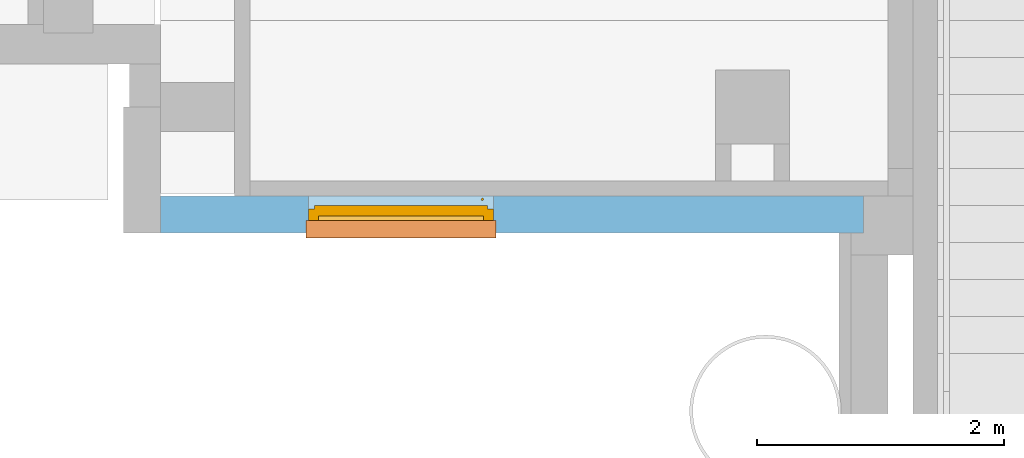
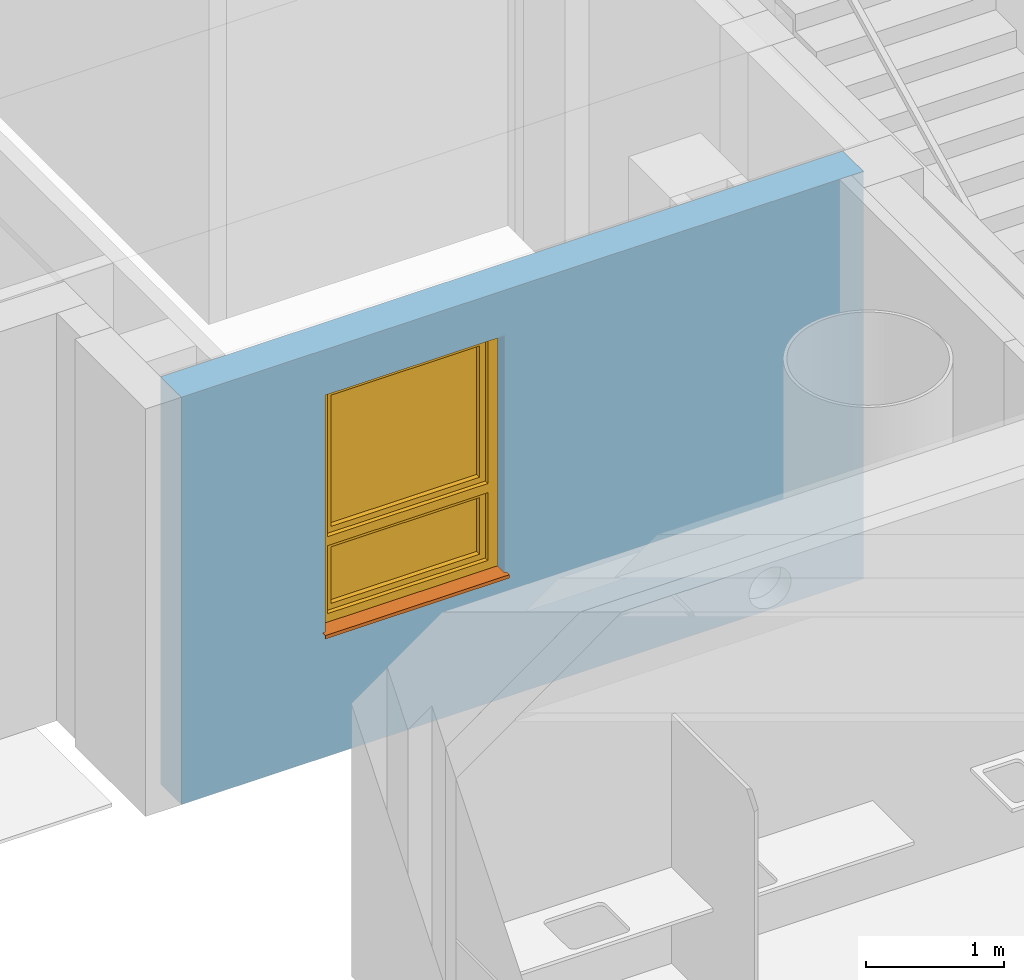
# One storey, part 68 of 140: 1 proxy, 1 window, 1 opening, plus 1 element that does not belong to this part.
"""IFC4 building model written with IfcOpenShell, lengths in metres."""

import ifcopenshell
import ifcopenshell.guid

model = None  # the IFC model being written
_history = None  # IfcOwnerHistory: only IFC2X3 demands one
_inside = {}  # id of a spatial element -> (the spatial element, [elements in it])
_under = {}  # id of a project, library or spatial element -> (it, [spatial elements below it])
_declared = {}  # id of a project -> (the project, [libraries it declares])
_typed = {}  # id of a type object -> (the type object, [elements of that type])
_made_of = {}  # id of a material, layer set ... -> (it, [elements and type objects made of it])


def new_model(schema):
    """Start an empty IFC model of exactly this schema.

    Asked for "IFC4X3", IfcOpenShell would pick the latest addendum, in which some entities
    have other attributes; the version numbers below select the first issue.
    IFC2X3 requires an IfcOwnerHistory on every rooted entity: one is made here for all.
    """
    global model, _history
    if schema == "IFC4X3":
        model = ifcopenshell.file(schema_version=(4, 3, 0, 0))
    else:
        model = ifcopenshell.file(schema=schema)
    _inside.clear()
    _under.clear()
    _declared.clear()
    _typed.clear()
    _made_of.clear()
    _history = None
    if model.schema == "IFC2X3":
        org = make("IfcOrganization", Name="unknown")
        user = make(
            "IfcPersonAndOrganization",
            ThePerson=make("IfcPerson", FamilyName="unknown"),
            TheOrganization=org,
        )
        app = make(
            "IfcApplication",
            ApplicationDeveloper=org,
            Version="unknown",
            ApplicationFullName="unknown",
            ApplicationIdentifier="unknown",
        )
        _history = make(
            "IfcOwnerHistory",
            OwningUser=user,
            OwningApplication=app,
            ChangeAction="ADDED",
            CreationDate=0,
        )
    return model


def make(cls, **values):
    """One entity of the class cls with the attributes given. An attribute that is None is left unset."""
    return model.create_entity(
        cls, **{name: value for name, value in values.items() if value is not None}
    )


def entity(cls, *values):
    """Any entity or typed value of the class cls, its attributes in the order of the schema. None: left unset."""
    e = model.create_entity(cls)
    for i, value in enumerate(values):
        if value is not None:
            e[i] = value
    return e


def rooted(cls, **values):
    """An entity with a GlobalId (a new one), such as an element, a storey or a relation."""
    return make(cls, GlobalId=ifcopenshell.guid.new(), OwnerHistory=_history, **values)


def si_unit(unit_type, name, prefix=None):
    """IfcSIUnit, for example si_unit("LENGTHUNIT", "METRE", prefix="MILLI")."""
    return make("IfcSIUnit", UnitType=unit_type, Prefix=prefix, Name=name)


def converted_unit(unit_type, name, factor, base, dimensions=None, offset=None):
    """IfcConversionBasedUnit, such as the inch: factor (a typed value) times the base unit."""
    return make(
        "IfcConversionBasedUnit"
        if offset is None
        else "IfcConversionBasedUnitWithOffset",
        ConversionOffset=offset,
        Dimensions=None
        if dimensions is None
        else entity("IfcDimensionalExponents", *dimensions),
        UnitType=unit_type,
        Name=name,
        ConversionFactor=make(
            "IfcMeasureWithUnit", ValueComponent=factor, UnitComponent=base
        ),
    )


def derived_unit(unit_type, elements):
    """IfcDerivedUnit: a product of units, each with its exponent."""
    return make(
        "IfcDerivedUnit",
        Elements=[
            make("IfcDerivedUnitElement", Unit=unit, Exponent=power)
            for unit, power in elements
        ],
        UnitType=unit_type,
    )


def assignment(units):
    """IfcUnitAssignment: the units of a project."""
    return None if units is None else make("IfcUnitAssignment", Units=units)


def point(xyz):
    """IfcCartesianPoint."""
    return None if xyz is None else make("IfcCartesianPoint", Coordinates=xyz)


def direction(xyz):
    """IfcDirection."""
    return None if xyz is None else make("IfcDirection", DirectionRatios=xyz)


def frame(location, z_axis=None, x_axis=None):
    """IfcAxis2Placement3D, a coordinate frame: its origin and axes. An axis left out is left unset."""
    return make(
        "IfcAxis2Placement3D",
        Location=point(location),
        Axis=direction(z_axis),
        RefDirection=direction(x_axis),
    )


def frame_2d(location, x_axis=None):
    """IfcAxis2Placement2D, a coordinate frame in the plane: its origin and x axis."""
    return make(
        "IfcAxis2Placement2D", Location=point(location), RefDirection=direction(x_axis)
    )


def origin():
    """The frame at (0, 0, 0) with its axes left unset."""
    return frame((0.0, 0.0, 0.0))


def origin_with_axes():
    """The frame at (0, 0, 0) with the z axis (0, 0, 1) and the x axis (1, 0, 0) written out."""
    return frame((0.0, 0.0, 0.0), z_axis=(0.0, 0.0, 1.0), x_axis=(1.0, 0.0, 0.0))


def place(relative_to, where):
    """IfcLocalPlacement: puts the frame where relative to a parent placement (None: the world)."""
    return make(
        "IfcLocalPlacement", PlacementRelTo=relative_to, RelativePlacement=where
    )


def context(
    kind, dimensions, precision=None, world=None, true_north=None, identifier=None
):
    """IfcGeometricRepresentationContext, for example the 3D "Model" context."""
    return make(
        "IfcGeometricRepresentationContext",
        ContextIdentifier=identifier,
        ContextType=kind,
        CoordinateSpaceDimension=dimensions,
        Precision=precision,
        WorldCoordinateSystem=world,
        TrueNorth=true_north,
    )


def subcontext(parent, identifier, kind, view, scale=None):
    """IfcGeometricRepresentationSubContext, for example "Body" below "Model"."""
    return make(
        "IfcGeometricRepresentationSubContext",
        ContextIdentifier=identifier,
        ContextType=kind,
        ParentContext=parent,
        TargetScale=scale,
        TargetView=view,
    )


def project(units=None, contexts=None):
    """IfcProject with its units and contexts."""
    return rooted(
        "IfcProject",
        Name="project",
        RepresentationContexts=contexts,
        UnitsInContext=assignment(units),
    )


def spatial(cls, under=None, at=None, **own):
    """A site, building, storey or space (cls), placed at a placement, below another one or the project."""
    s = rooted(cls, ObjectPlacement=at, **own)
    if under is not None:
        _under.setdefault(under.id(), (under, []))[1].append(s)
    return s


def polyline(points):
    """IfcPolyline through the points."""
    return make("IfcPolyline", Points=[point(p) for p in points])


def profile(cls, at=None, kind="AREA", **sizes):
    """A parametric profile (cls). Its sizes go by their IFC names, for example OverallWidth=200.0."""
    return make(cls, ProfileType=kind, Position=at, **sizes)


def rectangle(**sizes):
    """IfcRectangleProfileDef."""
    return profile("IfcRectangleProfileDef", **sizes)


def outline(outer, holes=None, kind="AREA"):
    """IfcArbitraryClosedProfileDef: a profile drawn as a closed curve; with holes, ...WithVoids."""
    if holes is None:
        return make("IfcArbitraryClosedProfileDef", ProfileType=kind, OuterCurve=outer)
    return make(
        "IfcArbitraryProfileDefWithVoids",
        ProfileType=kind,
        OuterCurve=outer,
        InnerCurves=holes,
    )


def extrude(swept, where, along, depth):
    """IfcExtrudedAreaSolid: the profile swept, set in the frame where, extruded along a direction by depth."""
    return make(
        "IfcExtrudedAreaSolid",
        SweptArea=swept,
        Position=where,
        ExtrudedDirection=direction(along),
        Depth=depth,
    )


def faces_of(points, faces, orient=None, outer=None):
    """IfcFace entities. A face is a list of loops; a loop is a list of indices into points, from 0.

    orient and outer hold one flag for each loop. By default every Orientation is true, the
    first loop of a face is its IfcFaceOuterBound and the others are IfcFaceBound.
    """
    made = []
    for i, loops in enumerate(faces):
        bounds = []
        for j, loop in enumerate(loops):
            is_outer = j == 0 if outer is None else outer[i][j]
            bounds.append(
                make(
                    "IfcFaceOuterBound" if is_outer else "IfcFaceBound",
                    Bound=make("IfcPolyLoop", Polygon=[points[k] for k in loop]),
                    Orientation=True if orient is None else orient[i][j],
                )
            )
        made.append(make("IfcFace", Bounds=bounds))
    return made


def closed_shell(faces, orient=None, outer=None):
    """The faces of one IfcClosedShell. faceted_brep and surface_model build it on their shared points."""
    return ("IfcClosedShell", faces, orient, outer)


def open_shell(faces, orient=None, outer=None):
    """The faces of one IfcOpenShell. surface_model builds it on its shared points."""
    return ("IfcOpenShell", faces, orient, outer)


def faceted_brep(points, faces, orient=None, outer=None, voids=None):
    """IfcFacetedBrep: a solid bounded by flat faces; with voids (closed shells), ...WithVoids."""
    shared = [point(p) for p in points]
    hull = make("IfcClosedShell", CfsFaces=faces_of(shared, faces, orient, outer))
    if voids is None:
        return make("IfcFacetedBrep", Outer=hull)
    return make(
        "IfcFacetedBrepWithVoids",
        Outer=hull,
        Voids=[
            make(cls, CfsFaces=faces_of(shared, fs, o, b)) for cls, fs, o, b in voids
        ],
    )


def surface_model(cls, points, shells):
    """IfcFaceBasedSurfaceModel or IfcShellBasedSurfaceModel (cls): surfaces that need not close."""
    shared = [point(p) for p in points]
    made = [make(c, CfsFaces=faces_of(shared, fs, o, b)) for c, fs, o, b in shells]
    if cls == "IfcFaceBasedSurfaceModel":
        return make(cls, FbsmFaces=made)
    return make(cls, SbsmBoundary=made)


def shape(context_of_items, identifier, shape_type, items):
    """IfcShapeRepresentation: the items that make up one representation, for example the "Body"."""
    return make(
        "IfcShapeRepresentation",
        ContextOfItems=context_of_items,
        RepresentationIdentifier=identifier,
        RepresentationType=shape_type,
        Items=items,
    )


def source(mapping_origin, context_of_items, identifier, shape_type, items):
    """IfcRepresentationMap: a shape defined once, which mapped items show again and again."""
    return make(
        "IfcRepresentationMap",
        MappingOrigin=mapping_origin,
        MappedRepresentation=shape(context_of_items, identifier, shape_type, items),
    )


def transform(
    local_origin,
    x_axis=None,
    y_axis=None,
    z_axis=None,
    scale=None,
    scale2=None,
    scale3=None,
    uniform=True,
):
    """IfcCartesianTransformationOperator3D, or its non-uniform kind. x_axis, y_axis, z_axis: its Axis1, 2, 3."""
    if uniform:
        return make(
            "IfcCartesianTransformationOperator3D",
            Axis1=direction(x_axis),
            Axis2=direction(y_axis),
            LocalOrigin=point(local_origin),
            Scale=scale,
            Axis3=direction(z_axis),
        )
    return make(
        "IfcCartesianTransformationOperator3DnonUniform",
        Axis1=direction(x_axis),
        Axis2=direction(y_axis),
        LocalOrigin=point(local_origin),
        Scale=scale,
        Axis3=direction(z_axis),
        Scale2=scale2,
        Scale3=scale3,
    )


def mapped(mapping_source, mapping_target):
    """IfcMappedItem: shows the shape of a source again, moved by a transform."""
    return make(
        "IfcMappedItem", MappingSource=mapping_source, MappingTarget=mapping_target
    )


def material(Name=None, Category=None):
    """IfcMaterial."""
    return make("IfcMaterial", Name=Name, Category=Category)


def layer(
    of_material, thickness, ventilated=None, Name=None, Category=None, Priority=None
):
    """IfcMaterialLayer: one layer of a wall or slab, of a material (None: an air gap)."""
    return make(
        "IfcMaterialLayer",
        Material=of_material,
        LayerThickness=thickness,
        IsVentilated=ventilated,
        Name=Name,
        Category=Category,
        Priority=Priority,
    )


def layer_set(layers, Name=None):
    """IfcMaterialLayerSet."""
    return make("IfcMaterialLayerSet", MaterialLayers=layers, LayerSetName=Name)


def layer_usage(for_layer_set, set_direction, sense, offset, extent=None):
    """IfcMaterialLayerSetUsage: how a layer set lies in its element."""
    return make(
        "IfcMaterialLayerSetUsage",
        ForLayerSet=for_layer_set,
        LayerSetDirection=set_direction,
        DirectionSense=sense,
        OffsetFromReferenceLine=offset,
        ReferenceExtent=extent,
    )


def made_of(thing, what):
    """Note that an element or type object is made of a material, layer set ...; save() writes the relation."""
    if what is not None:
        _made_of.setdefault(what.id(), (what, []))[1].append(thing)
    return thing


def element(
    cls,
    number,
    at=None,
    inside=None,
    cuts=None,
    type_object=None,
    material=None,
    context=None,
    identifier="Body",
    shape_type=None,
    held_by="IfcProductDefinitionShape",
    body=None,
    shapes=None,
    **own,
):
    """One element of the class cls, such as IfcWall. Its Tag is "e" and its number.

    at: its placement. inside: the storey or other place that contains it. cuts: it is an
    opening in that element (IfcRelVoidsElement). A single representation is given by context,
    identifier, shape_type and body (its items); several are given by shapes. held_by: the class
    of the entity that holds the representations. save() writes the other relations.
    """
    e = rooted(cls, Tag="e%d" % number, ObjectPlacement=at, **own)
    if body is not None:
        shapes = [shape(context, identifier, shape_type, body)]
    if shapes is not None:
        e.Representation = make(held_by, Representations=shapes)
    if inside is not None:
        _inside.setdefault(inside.id(), (inside, []))[1].append(e)
    if cuts is not None:
        rooted(
            "IfcRelVoidsElement", RelatingBuildingElement=cuts, RelatedOpeningElement=e
        )
    if type_object is not None:
        _typed.setdefault(type_object.id(), (type_object, []))[1].append(e)
    return made_of(e, material)


def fill(opening, filler):
    """IfcRelFillsElement: the door or window that sits in an opening."""
    return rooted(
        "IfcRelFillsElement",
        RelatingOpeningElement=opening,
        RelatedBuildingElement=filler,
    )


def aggregate(whole, parts):
    """IfcRelAggregates: a whole, such as a stair, and the parts it consists of."""
    return rooted("IfcRelAggregates", RelatingObject=whole, RelatedObjects=parts)


def save(model, path):
    """Write the relations noted so far, then the file.

    IfcRelAggregates (storeys below a building ...), IfcRelContainedInSpatialStructure (elements
    in a storey), IfcRelDefinesByType, IfcRelAssociatesMaterial and IfcRelDeclares: one each for
    every whole, place, type object, material and project.
    """
    for whole, parts in _under.values():
        aggregate(whole, parts)
    for where, things in _inside.values():
        rooted(
            "IfcRelContainedInSpatialStructure",
            RelatedElements=things,
            RelatingStructure=where,
        )
    for kind, things in _typed.values():
        rooted("IfcRelDefinesByType", RelatedObjects=things, RelatingType=kind)
    for what, things in _made_of.values():
        rooted("IfcRelAssociatesMaterial", RelatedObjects=things, RelatingMaterial=what)
    for by, libraries in _declared.values():
        rooted("IfcRelDeclares", RelatingContext=by, RelatedDefinitions=libraries)
    model.write(path)


model = new_model("IFC4")

# Units and contexts
model_context = context("Model", 3, precision=1e-05, world=origin())
body_context = subcontext(model_context, "Body", "Model", "MODEL_VIEW")
ifc_project = project(units=[si_unit("LENGTHUNIT", "METRE"), si_unit("AREAUNIT", "SQUARE_METRE"), si_unit("VOLUMEUNIT", "CUBIC_METRE"), si_unit("MASSUNIT", "GRAM", prefix="KILO"), converted_unit("PLANEANGLEUNIT", "DEGREE", entity("IfcPlaneAngleMeasure", 0.0174532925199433), si_unit("PLANEANGLEUNIT", "RADIAN"), dimensions=[0, 0, 0, 0, 0, 0, 0]), derived_unit("THERMALTRANSMITTANCEUNIT", [(si_unit("POWERUNIT", "WATT"), 1), (si_unit("THERMODYNAMICTEMPERATUREUNIT", "KELVIN"), -1), (si_unit("LENGTHUNIT", "METRE"), -2)]), derived_unit("VOLUMETRICFLOWRATEUNIT", [(si_unit("LENGTHUNIT", "METRE"), 3), (converted_unit("TIMEUNIT", "hour", entity("IfcTimeMeasure", 3600.0), si_unit("TIMEUNIT", "SECOND"), dimensions=[0, 0, 1, 0, 0, 0, 0]), -1), (si_unit("LENGTHUNIT", "METRE"), -1)])], contexts=[model_context])

# Site, building, storey
site_placement = place(None, origin())
site = spatial("IfcSite", under=ifc_project, at=site_placement, Name="3. ASŘ", CompositionType="ELEMENT")
building_placement = place(site_placement, origin())
building = spatial("IfcBuilding", under=site, at=building_placement, Name="Pavilon C", CompositionType="ELEMENT")
storey_placement = place(building_placement, origin())
storey = spatial("IfcBuildingStorey", under=building, at=storey_placement, Name="Půdorys 1.NP", CompositionType="ELEMENT", Elevation=0.0)

# Wall, opening, window, proxy
ifc_material_1 = material(Name="ZELEZOBETONOVÁ KCE")
ifc_layer = layer(ifc_material_1, 0.3)
ifc_layer_set = layer_set([ifc_layer])
ifc_layer_usage = layer_usage(ifc_layer_set, "AXIS2", "POSITIVE", 0.0)
wall_placement = place(storey_placement, frame((24.75, -1.02, -0.1)))
wall = element("IfcWall", 1, at=wall_placement, inside=storey, material=ifc_layer_usage, Name="ZELEZOBETONOVÁ KCE", context=body_context, shape_type="SweptSolid", body=[
    extrude(rectangle(XDim=5.7, YDim=0.3, at=frame_2d((2.85, 0.15), x_axis=(1.0, 0.0))), origin_with_axes(), (0.0, 0.0, 1.0), 3.6),
])
opening_placement = place(wall_placement, frame((1.2, 0.0, 1.1), z_axis=(0.0, 1.0, 0.0), x_axis=(0.0, 0.0, 1.0)))
opening = element("IfcOpeningElement", 2, at=opening_placement, cuts=wall, Name="Okenní otvor", ObjectType="Opening", context=body_context, shape_type="SweptSolid", body=[
    extrude(outline(polyline([(0.0, 1.5), (2.1, 1.5), (2.1, 0.0), (0.0, 0.0), (0.0, 1.5)])), origin_with_axes(), (0.0, 0.0, 1.0), 0.3),
])
shared_shape_1 = source(origin_with_axes(), body_context, "Body", "SurfaceModel", [
    surface_model("IfcShellBasedSurfaceModel", [(0.0, 0.182, 2.1), (0.0, 0.182, -5.63337527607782e-18), (0.08, 0.182, -5.63337527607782e-18), (0.08, 0.182, 2.1), (0.0, 0.0899999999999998, 5.63337527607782e-18), (0.0, 0.0900000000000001, 2.1), (0.08, 0.0900000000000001, 2.1), (0.08, 0.0899999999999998, 5.63337527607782e-18)], [closed_shell([[[0, 1, 2, 3]], [[4, 5, 6, 7]], [[1, 0, 5, 4]], [[2, 1, 4, 7]], [[3, 2, 7, 6]], [[0, 3, 6, 5]]], orient=[[False], [False], [False], [False], [False], [False]])]),
    surface_model("IfcShellBasedSurfaceModel", [(1.42, 0.182, 2.1), (1.42, 0.182, -5.63337527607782e-18), (1.5, 0.182, -5.63337527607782e-18), (1.5, 0.182, 2.1), (1.42, 0.0899999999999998, 5.63337527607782e-18), (1.42, 0.0900000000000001, 2.1), (1.5, 0.0900000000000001, 2.1), (1.5, 0.0899999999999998, 5.63337527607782e-18)], [closed_shell([[[0, 1, 2, 3]], [[4, 5, 6, 7]], [[1, 0, 5, 4]], [[2, 1, 4, 7]], [[3, 2, 7, 6]], [[0, 3, 6, 5]]], orient=[[False], [False], [False], [False], [False], [False]])]),
    surface_model("IfcShellBasedSurfaceModel", [(0.08, 0.182, 0.08), (0.08, 0.182, -5.63337527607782e-18), (1.42, 0.182, -5.63337527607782e-18), (1.42, 0.182, 0.08), (0.08, 0.0899999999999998, 5.63337527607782e-18), (0.08, 0.0899999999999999, 0.08), (1.42, 0.0899999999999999, 0.08), (1.42, 0.0899999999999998, 5.63337527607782e-18)], [closed_shell([[[0, 1, 2, 3]], [[4, 5, 6, 7]], [[1, 0, 5, 4]], [[2, 1, 4, 7]], [[3, 2, 7, 6]], [[0, 3, 6, 5]]], orient=[[False], [False], [False], [False], [False], [False]])]),
    surface_model("IfcShellBasedSurfaceModel", [(0.08, 0.182, 2.1), (0.08, 0.182, 2.02), (1.42, 0.182, 2.02), (1.42, 0.182, 2.1), (0.08, 0.0900000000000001, 2.02), (0.08, 0.0900000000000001, 2.1), (1.42, 0.0900000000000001, 2.1), (1.42, 0.0900000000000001, 2.02)], [closed_shell([[[0, 1, 2, 3]], [[4, 5, 6, 7]], [[1, 0, 5, 4]], [[2, 1, 4, 7]], [[3, 2, 7, 6]], [[0, 3, 6, 5]]], orient=[[False], [False], [False], [False], [False], [False]])]),
    surface_model("IfcShellBasedSurfaceModel", [(0.08, 0.182, 0.76), (0.08, 0.182, 0.68), (1.42, 0.182, 0.68), (1.42, 0.182, 0.76), (0.08, 0.0899999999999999, 0.68), (0.08, 0.0899999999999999, 0.76), (1.42, 0.0899999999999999, 0.76), (1.42, 0.0899999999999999, 0.68)], [closed_shell([[[0, 1, 2, 3]], [[4, 5, 6, 7]], [[1, 0, 5, 4]], [[2, 1, 4, 7]], [[3, 2, 7, 6]], [[0, 3, 6, 5]]], orient=[[False], [False], [False], [False], [False], [False]])]),
    surface_model("IfcShellBasedSurfaceModel", [(0.05, 0.145, 0.71), (0.05, 0.145, 0.05), (0.13, 0.145, 0.05), (0.13, 0.145, 0.71), (0.05, 0.0599999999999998, 0.05), (0.05, 0.0599999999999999, 0.71), (0.13, 0.0599999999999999, 0.71), (0.13, 0.0599999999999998, 0.05)], [closed_shell([[[0, 1, 2, 3]], [[4, 5, 6, 7]], [[1, 0, 5, 4]], [[2, 1, 4, 7]], [[3, 2, 7, 6]], [[0, 3, 6, 5]]], orient=[[False], [False], [False], [False], [False], [False]])]),
    surface_model("IfcShellBasedSurfaceModel", [(1.37, 0.145, 0.71), (1.37, 0.145, 0.05), (1.45, 0.145, 0.05), (1.45, 0.145, 0.71), (1.37, 0.0599999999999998, 0.05), (1.37, 0.0599999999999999, 0.71), (1.45, 0.0599999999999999, 0.71), (1.45, 0.0599999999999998, 0.05)], [closed_shell([[[0, 1, 2, 3]], [[4, 5, 6, 7]], [[1, 0, 5, 4]], [[2, 1, 4, 7]], [[3, 2, 7, 6]], [[0, 3, 6, 5]]], orient=[[False], [False], [False], [False], [False], [False]])]),
    surface_model("IfcShellBasedSurfaceModel", [(0.13, 0.145, 0.13), (0.13, 0.145, 0.05), (1.37, 0.145, 0.05), (1.37, 0.145, 0.13), (0.13, 0.0599999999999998, 0.05), (0.13, 0.0599999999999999, 0.13), (1.37, 0.0599999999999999, 0.13), (1.37, 0.0599999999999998, 0.05)], [closed_shell([[[0, 1, 2, 3]], [[4, 5, 6, 7]], [[1, 0, 5, 4]], [[2, 1, 4, 7]], [[3, 2, 7, 6]], [[0, 3, 6, 5]]], orient=[[False], [False], [False], [False], [False], [False]])]),
    surface_model("IfcShellBasedSurfaceModel", [(0.13, 0.145, 0.71), (0.13, 0.145, 0.63), (1.37, 0.145, 0.63), (1.37, 0.145, 0.71), (0.13, 0.0599999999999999, 0.63), (0.13, 0.0599999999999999, 0.71), (1.37, 0.0599999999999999, 0.71), (1.37, 0.0599999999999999, 0.63)], [closed_shell([[[0, 1, 2, 3]], [[4, 5, 6, 7]], [[1, 0, 5, 4]], [[2, 1, 4, 7]], [[3, 2, 7, 6]], [[0, 3, 6, 5]]], orient=[[False], [False], [False], [False], [False], [False]])]),
    surface_model("IfcShellBasedSurfaceModel", [(0.05, 0.145, 2.05), (0.05, 0.145, 0.73), (0.13, 0.145, 0.73), (0.13, 0.145, 2.05), (0.05, 0.0599999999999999, 0.73), (0.05, 0.0600000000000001, 2.05), (0.13, 0.0600000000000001, 2.05), (0.13, 0.0599999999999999, 0.73)], [closed_shell([[[0, 1, 2, 3]], [[4, 5, 6, 7]], [[1, 0, 5, 4]], [[2, 1, 4, 7]], [[3, 2, 7, 6]], [[0, 3, 6, 5]]], orient=[[False], [False], [False], [False], [False], [False]])]),
    surface_model("IfcShellBasedSurfaceModel", [(1.37, 0.145, 2.05), (1.37, 0.145, 0.73), (1.45, 0.145, 0.73), (1.45, 0.145, 2.05), (1.37, 0.0599999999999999, 0.73), (1.37, 0.0600000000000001, 2.05), (1.45, 0.0600000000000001, 2.05), (1.45, 0.0599999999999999, 0.73)], [closed_shell([[[0, 1, 2, 3]], [[4, 5, 6, 7]], [[1, 0, 5, 4]], [[2, 1, 4, 7]], [[3, 2, 7, 6]], [[0, 3, 6, 5]]], orient=[[False], [False], [False], [False], [False], [False]])]),
    surface_model("IfcShellBasedSurfaceModel", [(0.13, 0.145, 0.81), (0.13, 0.145, 0.73), (1.37, 0.145, 0.73), (1.37, 0.145, 0.81), (0.13, 0.0599999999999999, 0.73), (0.13, 0.0599999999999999, 0.81), (1.37, 0.0599999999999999, 0.81), (1.37, 0.0599999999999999, 0.73)], [closed_shell([[[0, 1, 2, 3]], [[4, 5, 6, 7]], [[1, 0, 5, 4]], [[2, 1, 4, 7]], [[3, 2, 7, 6]], [[0, 3, 6, 5]]], orient=[[False], [False], [False], [False], [False], [False]])]),
    surface_model("IfcShellBasedSurfaceModel", [(0.13, 0.145, 2.05), (0.13, 0.145, 1.97), (1.37, 0.145, 1.97), (1.37, 0.145, 2.05), (0.13, 0.0600000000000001, 1.97), (0.13, 0.0600000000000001, 2.05), (1.37, 0.0600000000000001, 2.05), (1.37, 0.0600000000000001, 1.97)], [closed_shell([[[0, 1, 2, 3]], [[4, 5, 6, 7]], [[1, 0, 5, 4]], [[2, 1, 4, 7]], [[3, 2, 7, 6]], [[0, 3, 6, 5]]], orient=[[False], [False], [False], [False], [False], [False]])]),
    surface_model("IfcShellBasedSurfaceModel", [(0.0775, 0.06, 1.41), (0.0775, 0.06, 1.37), (0.1025, 0.06, 1.37), (0.1025, 0.06, 1.41), (0.0775, 0.05, 1.37), (0.0775, 0.05, 1.41), (0.1025, 0.05, 1.41), (0.1025, 0.05, 1.37)], [closed_shell([[[0, 1, 2, 3]], [[4, 5, 6, 7]], [[1, 0, 5, 4]], [[2, 1, 4, 7]], [[3, 2, 7, 6]], [[0, 3, 6, 5]]], orient=[[False], [False], [False], [False], [False], [False]])]),
    surface_model("IfcShellBasedSurfaceModel", [(0.1, 0.05, 1.39), (0.0986602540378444, 0.05, 1.395), (0.095, 0.05, 1.39866025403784), (0.09, 0.05, 1.4), (0.085, 0.05, 1.39866025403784), (0.0813397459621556, 0.05, 1.395), (0.08, 0.05, 1.39), (0.0813397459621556, 0.05, 1.385), (0.085, 0.05, 1.38133974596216), (0.09, 0.05, 1.38), (0.095, 0.05, 1.38133974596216), (0.0986602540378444, 0.05, 1.385), (0.1, 0.01, 1.39), (0.0986602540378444, 0.00500000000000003, 1.395), (0.095, 0.00133974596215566, 1.39866025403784), (0.09, 2.8421709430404e-17, 1.4), (0.085, 0.00133974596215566, 1.39866025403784), (0.0813397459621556, 0.00500000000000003, 1.395), (0.08, 0.01, 1.39), (0.0813397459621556, 0.015, 1.385), (0.085, 0.0186602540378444, 1.38133974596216), (0.09, 0.02, 1.38), (0.095, 0.0186602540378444, 1.38133974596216), (0.0986602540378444, 0.015, 1.385), (0.1, 0.01, 1.275), (0.0986602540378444, 0.005, 1.275), (0.095, 0.00133974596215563, 1.275), (0.09, 0.0, 1.275), (0.085, 0.00133974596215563, 1.275), (0.0813397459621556, 0.005, 1.275), (0.08, 0.01, 1.275), (0.0813397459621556, 0.015, 1.275), (0.085, 0.0186602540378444, 1.275), (0.09, 0.02, 1.275), (0.095, 0.0186602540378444, 1.275), (0.0986602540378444, 0.015, 1.275)], [open_shell([[[0, 1, 2, 3, 4, 5, 6, 7, 8, 9, 10, 11]], [[0, 12, 13, 1]], [[1, 13, 14, 2]], [[2, 14, 15, 3]], [[3, 15, 16, 4]], [[4, 16, 17, 5]], [[5, 17, 18, 6]], [[6, 18, 19, 7]], [[7, 19, 20, 8]], [[8, 20, 21, 9]], [[9, 21, 22, 10]], [[10, 22, 23, 11]], [[11, 23, 12, 0]], [[12, 24, 25, 13]], [[13, 25, 26, 14]], [[14, 26, 27, 15]], [[15, 27, 28, 16]], [[16, 28, 29, 17]], [[17, 29, 30, 18]], [[18, 30, 31, 19]], [[19, 31, 32, 20]], [[20, 32, 33, 21]], [[21, 33, 34, 22]], [[22, 34, 35, 23]], [[23, 35, 24, 12]]], orient=[[False], [False], [False], [False], [False], [False], [False], [False], [False], [False], [False], [False], [False], [False], [False], [False], [False], [False], [False], [False], [False], [False], [False], [False], [False]])]),
    surface_model("IfcShellBasedSurfaceModel", [(0.13, 0.1025, 0.13), (1.37, 0.1025, 0.13), (1.37, 0.1025, 0.63), (0.13, 0.1025, 0.63)], [open_shell([[[0, 1, 2, 3]]], orient=[[False]])]),
    surface_model("IfcShellBasedSurfaceModel", [(0.13, 0.1025, 0.81), (1.37, 0.1025, 0.81), (1.37, 0.1025, 1.97), (0.13, 0.1025, 1.97)], [open_shell([[[0, 1, 2, 3]]], orient=[[False]])]),
])
window_placement = place(opening_placement, frame((0.0, 1.5, 0.282), z_axis=(1.0, 0.0, 0.0), x_axis=(0.0, -1.0, 1.22464679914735e-16)))
window = element("IfcWindow", 3, at=window_placement, inside=storey, Name="O06", OverallHeight=2.1, OverallWidth=1.5, PartitioningType="USERDEFINED", PredefinedType="WINDOW", context=body_context, shape_type="MappedRepresentation", body=[
    mapped(shared_shape_1, transform((0.0, 0.0, 0.0), x_axis=(1.0, 0.0, 0.0), y_axis=(0.0, 1.0, 0.0), z_axis=(0.0, 0.0, 1.0), scale=1.0)),
])
fill(opening, window)
ifc_material_2 = material(Name="PLECH")
shared_shape_2 = source(origin_with_axes(), body_context, "Body", "Brep", [
    faceted_brep([(0.0, 0.0, 0.0), (0.0, 0.1, 0.0), (0.0, 0.1, 0.005), (0.0, 0.0, 0.005), (1.5, 0.0, 0.0), (1.5, 0.0, 0.005), (1.5, 0.1, 0.005), (1.5, 0.1, 0.0), (-0.02, 0.0, 0.0), (-0.02, -0.0349999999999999, 0.0), (1.52, -0.0349999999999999, 0.0), (1.52, 0.0, 0.0), (1.52, 0.0, 0.005), (1.52, -0.0399999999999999, 0.005), (-0.02, -0.0399999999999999, 0.005), (-0.02, 0.0, 0.005), (-0.02, -0.0399999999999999, -0.025), (-0.02, -0.0349999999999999, -0.025), (1.52, -0.0349999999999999, -0.025), (1.52, -0.0399999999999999, -0.025)], [[[0, 1, 2, 3]], [[4, 5, 6, 7]], [[1, 0, 8, 9, 10, 11, 4, 7]], [[2, 1, 7, 6]], [[3, 2, 6, 5, 12, 13, 14, 15]], [[8, 15, 14, 16, 17, 9]], [[11, 10, 18, 19, 13, 12]], [[15, 8, 0, 3]], [[5, 4, 11, 12]], [[16, 14, 13, 19]], [[17, 16, 19, 18]], [[9, 17, 18, 10]]], orient=[[False], [False], [False], [False], [False], [False], [False], [False], [False], [False], [False], [False]]),
    faceted_brep([(-0.02, 0.0, 0.0), (-0.02, 0.1, 0.0), (-0.02, 0.1, 0.005), (-0.02, 0.0, 0.005), (0.0, 0.0, 0.0), (0.0, 0.0, 0.005), (0.0, 0.1, 0.005), (0.0, 0.1, 0.0)], [[[0, 1, 2, 3]], [[4, 5, 6, 7]], [[1, 0, 4, 7]], [[2, 1, 7, 6]], [[3, 2, 6, 5]], [[0, 3, 5, 4]]], orient=[[False], [False], [False], [False], [False], [False]]),
    faceted_brep([(1.5, 0.0, 0.0), (1.5, 0.1, 0.0), (1.5, 0.1, 0.005), (1.5, 0.0, 0.005), (1.52, 0.0, 0.0), (1.52, 0.0, 0.005), (1.52, 0.1, 0.005), (1.52, 0.1, 0.0)], [[[0, 1, 2, 3]], [[4, 5, 6, 7]], [[1, 0, 4, 7]], [[2, 1, 7, 6]], [[3, 2, 6, 5]], [[0, 3, 5, 4]]], orient=[[False], [False], [False], [False], [False], [False]]),
])
proxy_placement = place(opening_placement, frame((0.0, 0.0, 0.0), z_axis=(1.0, 0.0, 0.0), x_axis=(0.0, 1.0, 0.0)))
proxy = element("IfcBuildingElementProxy", 4, at=proxy_placement, inside=storey, material=ifc_material_2, Name="Parapet vnější", context=body_context, shape_type="MappedRepresentation", body=[
    mapped(shared_shape_2, transform((0.0, 0.0, 0.0), x_axis=(1.0, 0.0, 0.0), y_axis=(0.0, 1.0, 0.0), z_axis=(0.0, 0.0, 1.0), scale=1.0)),
])
fill(opening, proxy)

save(model, "model.ifc")
